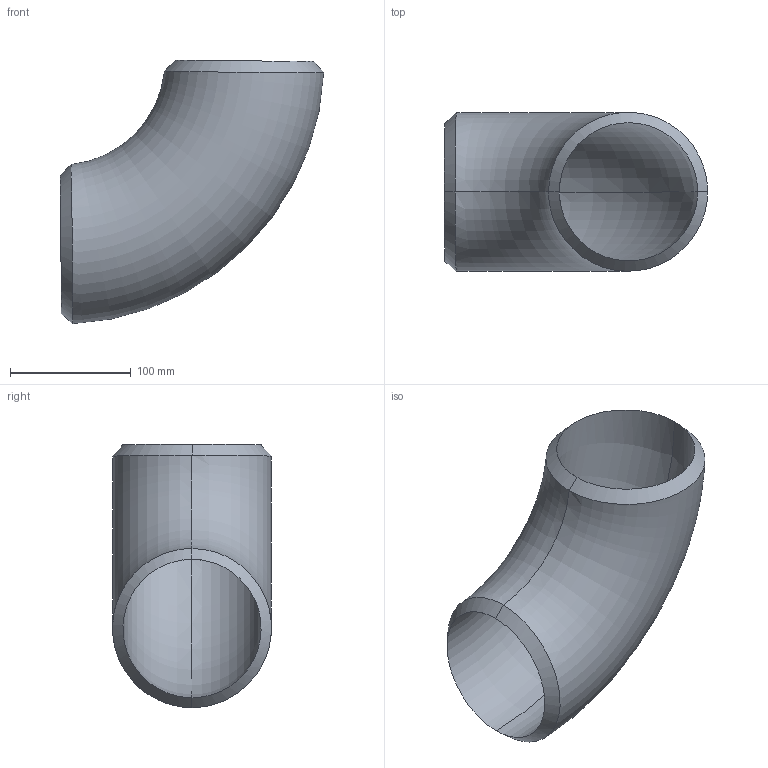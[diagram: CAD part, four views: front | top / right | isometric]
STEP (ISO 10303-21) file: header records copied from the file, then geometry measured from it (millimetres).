
FILE_DESCRIPTION (( 'STEP AP203' ), '1' );
FILE_NAME ('3D_R2651_4X80S_173421212_173425222.STEP', '2024-08-22T09:06:57', ( '' ), ( '' ), 'SwSTEP 2.0', 'SolidWorks 2024', '' );
FILE_SCHEMA (( 'CONFIG_CONTROL_DESIGN' ));
Length unit declared in the file: millimetre
Products named in the file (1): 3D_R2651_4X80S_173421212_173425222
Bounding box: 217.87 x 131.33 x 217.87 mm (x, y, z)
Volume: 752281.1 mm3; surface area: 185880.7 mm2
Topology: 1 solids, 1 shells, 10 faces, 26 edges, 16 vertices
Faces by surface type: bspline 4, torus 4, plane 2
Entity records: 3123 total; most frequent: CARTESIAN_POINT 2837, ORIENTED_EDGE 52, DIRECTION 30, EDGE_CURVE 26, B_SPLINE_CURVE_WITH_KNOTS 18, VERTEX_POINT 16, AXIS2_PLACEMENT_3D 15, ADVANCED_FACE 10
